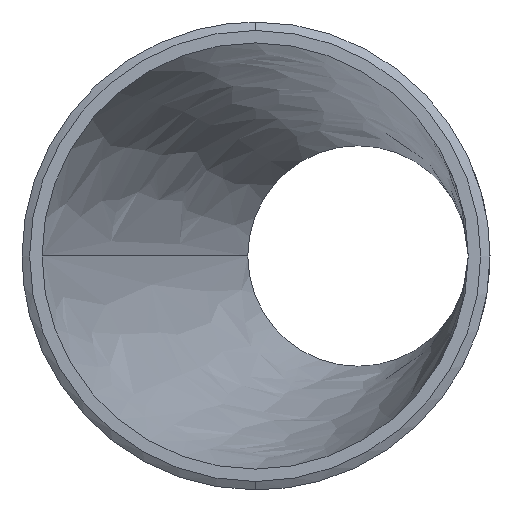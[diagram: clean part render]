
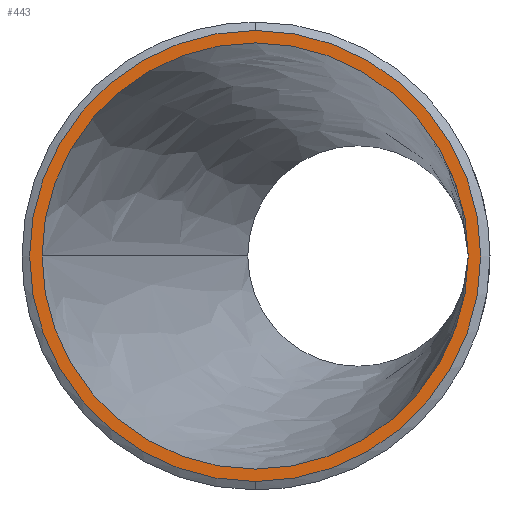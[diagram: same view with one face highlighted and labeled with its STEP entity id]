
A CAD part, left-side view. The second image highlights one B-rep face of the part: STEP entity #443.
In plain terms, the highlighted planar face has unit normal (-1, 0, 0).
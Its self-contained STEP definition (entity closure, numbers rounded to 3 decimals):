
#7 = AXIS2_PLACEMENT_3D ( 'NONE', #698, #755, #703 ) ;
#27 = EDGE_LOOP ( 'NONE', ( #194, #662 ) ) ;
#56 = AXIS2_PLACEMENT_3D ( 'NONE', #602, #234, #426 ) ;
#58 = CIRCLE ( 'NONE', #657, 29.05 ) ;
#73 = AXIS2_PLACEMENT_3D ( 'NONE', #514, #817, #243 ) ;
#81 = DIRECTION ( 'NONE',  ( 1., 0., 0. ) ) ;
#102 = ORIENTED_EDGE ( 'NONE', *, *, #626, .F. ) ;
#136 = EDGE_LOOP ( 'NONE', ( #141, #102 ) ) ;
#141 = ORIENTED_EDGE ( 'NONE', *, *, #325, .F. ) ;
#160 = DIRECTION ( 'NONE',  ( 0., 0., -1. ) ) ;
#194 = ORIENTED_EDGE ( 'NONE', *, *, #335, .T. ) ;
#204 = CARTESIAN_POINT ( 'NONE',  ( 0., 0., -29.05 ) ) ;
#234 = DIRECTION ( 'NONE',  ( 1., 0., 0. ) ) ;
#243 = DIRECTION ( 'NONE',  ( 0., 0., -1. ) ) ;
#298 = FACE_OUTER_BOUND ( 'NONE', #136, .T. ) ;
#325 = EDGE_CURVE ( 'NONE', #594, #356, #749, .T. ) ;
#328 = DIRECTION ( 'NONE',  ( 0., 0., -1. ) ) ;
#335 = EDGE_CURVE ( 'NONE', #400, #391, #450, .T. ) ;
#353 = DIRECTION ( 'NONE',  ( 1., 0., 0. ) ) ;
#356 = VERTEX_POINT ( 'NONE', #397 ) ;
#388 = CIRCLE ( 'NONE', #721, 27.45 ) ;
#391 = VERTEX_POINT ( 'NONE', #733 ) ;
#397 = CARTESIAN_POINT ( 'NONE',  ( 0., 0., 29.05 ) ) ;
#400 = VERTEX_POINT ( 'NONE', #417 ) ;
#417 = CARTESIAN_POINT ( 'NONE',  ( 0., 27.45, 0. ) ) ;
#426 = DIRECTION ( 'NONE',  ( 0., 0., -1. ) ) ;
#430 = PLANE ( 'NONE',  #56 ) ;
#443 = ADVANCED_FACE ( 'NONE', ( #487, #298 ), #430, .F. ) ;
#450 = CIRCLE ( 'NONE', #73, 27.45 ) ;
#487 = FACE_BOUND ( 'NONE', #27, .T. ) ;
#495 = EDGE_CURVE ( 'NONE', #391, #400, #388, .T. ) ;
#514 = CARTESIAN_POINT ( 'NONE',  ( 0., 0., 0. ) ) ;
#594 = VERTEX_POINT ( 'NONE', #204 ) ;
#602 = CARTESIAN_POINT ( 'NONE',  ( 0., 0., 0. ) ) ;
#626 = EDGE_CURVE ( 'NONE', #356, #594, #58, .T. ) ;
#657 = AXIS2_PLACEMENT_3D ( 'NONE', #717, #81, #328 ) ;
#662 = ORIENTED_EDGE ( 'NONE', *, *, #495, .T. ) ;
#678 = CARTESIAN_POINT ( 'NONE',  ( 0., 0., 0. ) ) ;
#698 = CARTESIAN_POINT ( 'NONE',  ( 0., 0., 0. ) ) ;
#703 = DIRECTION ( 'NONE',  ( 0., 0., -1. ) ) ;
#717 = CARTESIAN_POINT ( 'NONE',  ( 0., 0., 0. ) ) ;
#721 = AXIS2_PLACEMENT_3D ( 'NONE', #678, #353, #160 ) ;
#733 = CARTESIAN_POINT ( 'NONE',  ( 0., -27.45, 0. ) ) ;
#749 = CIRCLE ( 'NONE', #7, 29.05 ) ;
#755 = DIRECTION ( 'NONE',  ( 1., 0., 0. ) ) ;
#817 = DIRECTION ( 'NONE',  ( 1., 0., 0. ) ) ;
